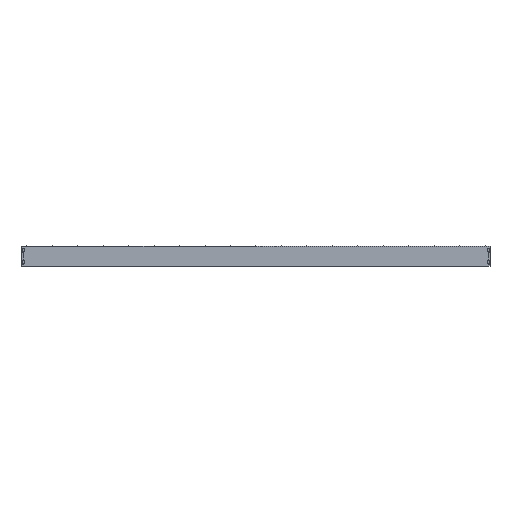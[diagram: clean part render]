
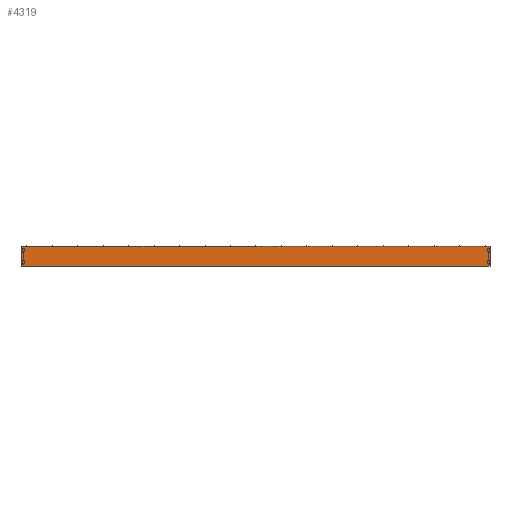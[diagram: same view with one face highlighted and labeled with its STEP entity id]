
A CAD part, front view. The second image highlights one B-rep face of the part: STEP entity #4319.
In plain terms, the highlighted planar face has unit normal (0, -1, 0) as drawn and (0, 0, 1) by its records, which use the part's own axes.
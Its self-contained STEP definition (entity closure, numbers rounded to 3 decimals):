
#466=PLANE('',#4721);
#594=LINE('',#6023,#1126);
#597=LINE('',#6029,#1129);
#598=LINE('',#6031,#1130);
#599=LINE('',#6033,#1131);
#1126=VECTOR('',#5167,1000.);
#1129=VECTOR('',#5172,1000.);
#1130=VECTOR('',#5173,1000.);
#1131=VECTOR('',#5174,1000.);
#1889=ORIENTED_EDGE('',*,*,#2895,.T.);
#1890=ORIENTED_EDGE('',*,*,#2896,.F.);
#1891=ORIENTED_EDGE('',*,*,#2897,.F.);
#1892=ORIENTED_EDGE('',*,*,#2892,.T.);
#2892=EDGE_CURVE('',#3425,#3424,#594,.T.);
#2895=EDGE_CURVE('',#3424,#3427,#597,.T.);
#2896=EDGE_CURVE('',#3428,#3427,#598,.T.);
#2897=EDGE_CURVE('',#3425,#3428,#599,.T.);
#3424=VERTEX_POINT('',#6022);
#3425=VERTEX_POINT('',#6024);
#3427=VERTEX_POINT('',#6030);
#3428=VERTEX_POINT('',#6032);
#3752=EDGE_LOOP('',(#1889,#1890,#1891,#1892));
#4022=FACE_BOUND('',#3752,.T.);
#4319=ADVANCED_FACE('',(#4022),#466,.F.);
#4721=AXIS2_PLACEMENT_3D('',#6028,#5170,#5171);
#5167=DIRECTION('',(-1.,0.,0.));
#5170=DIRECTION('',(0.,0.,-1.));
#5171=DIRECTION('',(-1.,0.,0.));
#5172=DIRECTION('',(0.,-1.,0.));
#5173=DIRECTION('',(-1.,0.,0.));
#5174=DIRECTION('',(0.,-1.,0.));
#6022=CARTESIAN_POINT('',(-350.,0.,500.));
#6023=CARTESIAN_POINT('',(350.,0.,500.));
#6024=CARTESIAN_POINT('',(350.,0.,500.));
#6028=CARTESIAN_POINT('',(350.,0.,500.));
#6029=CARTESIAN_POINT('',(-350.,0.,500.));
#6030=CARTESIAN_POINT('',(-350.,-30.,500.));
#6031=CARTESIAN_POINT('',(350.,-30.,500.));
#6032=CARTESIAN_POINT('',(350.,-30.,500.));
#6033=CARTESIAN_POINT('',(350.,0.,500.));
